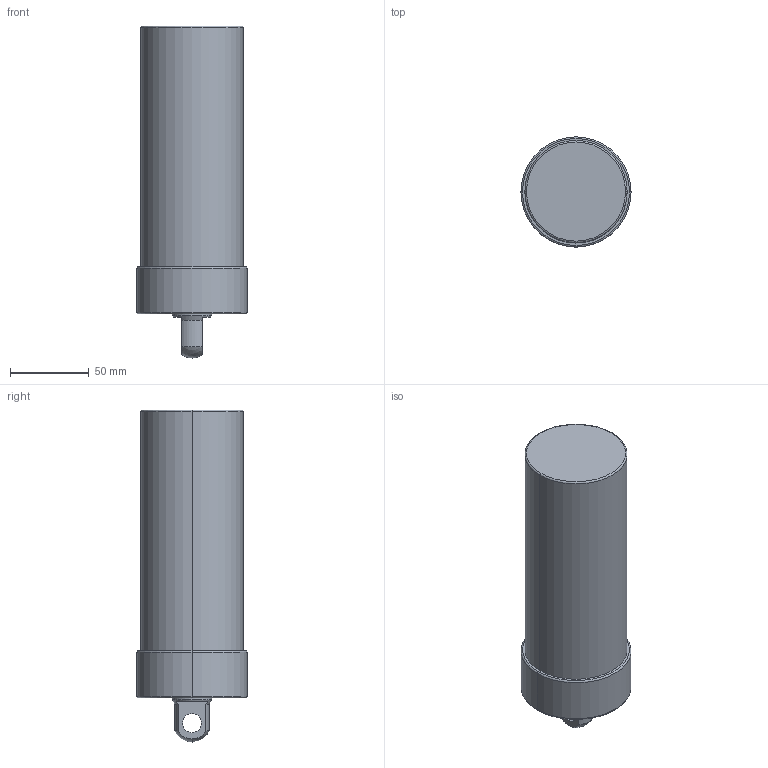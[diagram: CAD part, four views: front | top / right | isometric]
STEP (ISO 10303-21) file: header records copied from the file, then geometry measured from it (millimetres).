
FILE_DESCRIPTION (( 'STEP AP203' ), '1' );
FILE_NAME ('CLLU-065GP-120.STEP', '2020-01-08T00:36:40', ( '' ), ( '' ), 'SwSTEP 2.0', 'SolidWorks 2015', '' );
FILE_SCHEMA (( 'CONFIG_CONTROL_DESIGN' ));
Length unit declared in the file: millimetre
Products named in the file (1): CLLU-065GP-120
Bounding box: 70 x 70 x 211 mm (x, y, z)
Volume: 627239.8 mm3; surface area: 48199.1 mm2
Topology: 1 solids, 1 shells, 57 faces, 130 edges, 75 vertices
Faces by surface type: cylinder 22, cone 18, plane 9, torus 6, sphere 2
Entity records: 1643 total; most frequent: DIRECTION 308, CARTESIAN_POINT 267, ORIENTED_EDGE 244, AXIS2_PLACEMENT_3D 132, EDGE_CURVE 122, VERTEX_POINT 75, CIRCLE 74, EDGE_LOOP 67
